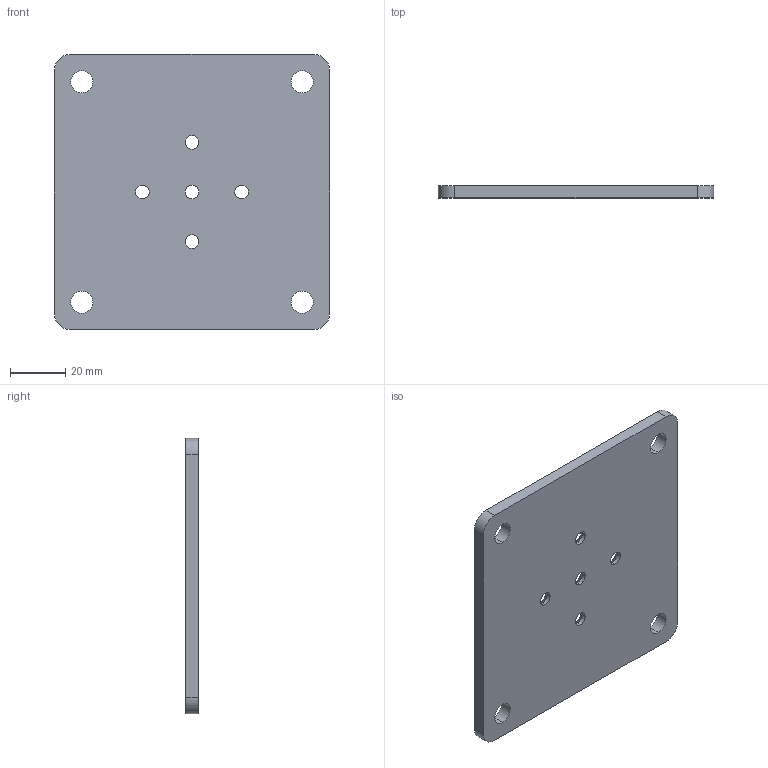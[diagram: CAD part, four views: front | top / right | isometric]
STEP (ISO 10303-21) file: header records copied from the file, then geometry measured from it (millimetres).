
FILE_DESCRIPTION (( 'STEP AP214' ), '1' );
FILE_NAME ('TablePlate100A.STEP', '2022-08-19T00:28:44', ( '' ), ( '' ), 'SwSTEP 2.0', 'SolidWorks 2021', '' );
FILE_SCHEMA (( 'AUTOMOTIVE_DESIGN' ));
Length unit declared in the file: millimetre
Products named in the file (1): TablePlate100A
Bounding box: 100 x 4.5 x 100 mm (x, y, z)
Volume: 43019.6 mm3; surface area: 21819.7 mm2
Topology: 1 solids, 1 shells, 38 faces, 98 edges, 62 vertices
Faces by surface type: cylinder 22, cone 10, plane 6
Entity records: 1246 total; most frequent: DIRECTION 230, CARTESIAN_POINT 199, ORIENTED_EDGE 196, EDGE_CURVE 98, AXIS2_PLACEMENT_3D 93, VERTEX_POINT 62, EDGE_LOOP 56, CIRCLE 54
